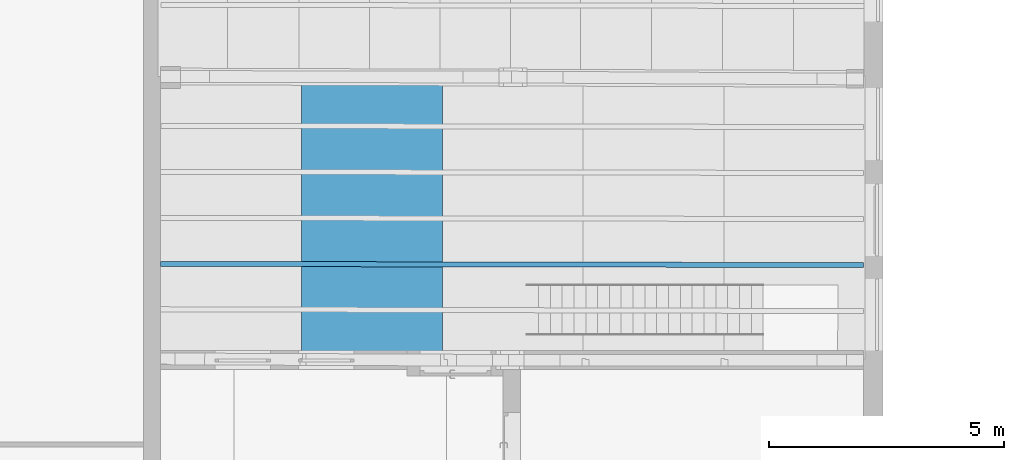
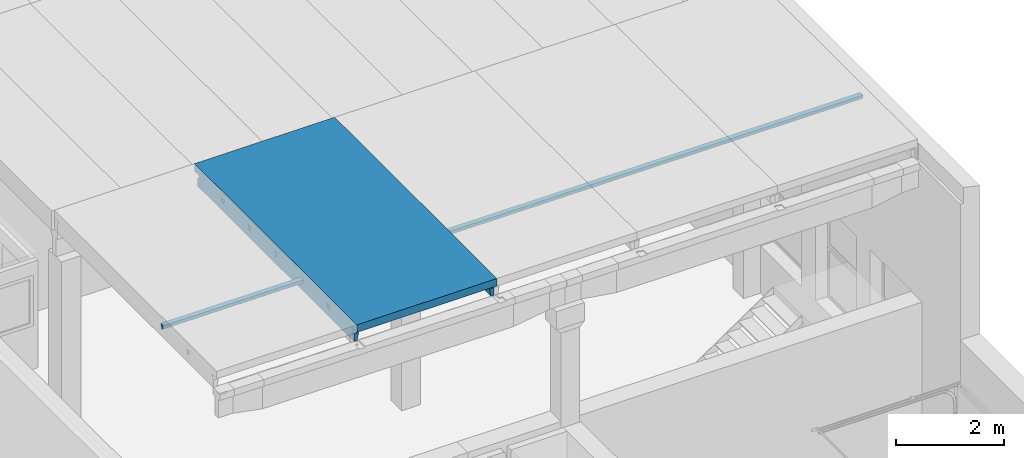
# One storey, part 27 of 301: 2 beams.
"""IFC2X3 building model written with IfcOpenShell, lengths in millimetres."""

from ifc_helpers import new_model, entity, si_unit, converted_unit, derived_unit, money_unit, direction, frame, origin_with_axes, place, context, subcontext, project, spatial, faceted_brep, material, type_object, element, save


model = new_model("IFC2X3")

# Units and contexts
model_context = context("Model", 3, precision=0.01, world=origin_with_axes(), true_north=direction((0.0, 1.0)))
body_context = subcontext(model_context, "Body", "Model", "MODEL_VIEW")
ifc_project = project(units=[si_unit("LENGTHUNIT", "METRE", prefix="MILLI"), si_unit("AREAUNIT", "SQUARE_METRE"), si_unit("VOLUMEUNIT", "CUBIC_METRE"), converted_unit("PLANEANGLEUNIT", "DEGREE", entity("IfcPlaneAngleMeasure", 0.0174532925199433), si_unit("PLANEANGLEUNIT", "RADIAN"), dimensions=[0, 0, 0, 0, 0, 0, 0]), money_unit("EUR"), converted_unit("TIMEUNIT", "Year", entity("IfcTimeMeasure", 31557600.0), si_unit("TIMEUNIT", "SECOND"), dimensions=[0, 0, 1, 0, 0, 0, 0]), si_unit("MASSUNIT", "GRAM", prefix="KILO"), si_unit("THERMODYNAMICTEMPERATUREUNIT", "DEGREE_CELSIUS"), si_unit("LUMINOUSINTENSITYUNIT", "LUMEN"), si_unit("ENERGYUNIT", "JOULE", prefix="MEGA"), derived_unit("THERMALCONDUCTANCEUNIT", [(si_unit("POWERUNIT", "WATT"), 1), (si_unit("LENGTHUNIT", "METRE"), -1), (si_unit("THERMODYNAMICTEMPERATUREUNIT", "KELVIN"), -1)]), derived_unit("SPECIFICHEATCAPACITYUNIT", [(si_unit("ENERGYUNIT", "JOULE"), 1), (si_unit("MASSUNIT", "GRAM", prefix="KILO"), -1), (si_unit("THERMODYNAMICTEMPERATUREUNIT", "KELVIN"), -1)]), derived_unit("MASSDENSITYUNIT", [(si_unit("MASSUNIT", "GRAM", prefix="KILO"), 1), (si_unit("VOLUMEUNIT", "CUBIC_METRE"), -1)])], contexts=[model_context])

# Site, building, storey
site_placement = place(None, frame((0.0, 0.0, 8650.0), z_axis=(0.0, 0.0, 1.0), x_axis=(1.0, 0.0, 0.0)))
site = spatial("IfcSite", under=ifc_project, at=site_placement, Name="43301:001:0844", CompositionType="ELEMENT")
building_placement = place(site_placement, origin_with_axes())
building = spatial("IfcBuilding", under=site, at=building_placement, Name="Kuressaare Ametikooli tuulikute mehaanikute õppekorpus", CompositionType="ELEMENT")
storey_placement = place(building_placement, origin_with_axes())
storey = spatial("IfcBuildingStorey", under=building, at=storey_placement, Name="1.korrus", CompositionType="ELEMENT", Elevation=0.0)

# Beams
ifc_material = material(Name="GENEERILINE - KONSTRUKTRIOON")
beam_type_1 = type_object("IfcBeamType", Name="Precast Double Tee 4 3000 x 440", PredefinedType="NOTDEFINED")
beam_1_placement = place(storey_placement, frame((92758.75644683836, 44085.15228588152, 7100.0), z_axis=(0.0, 0.0, 1.0), x_axis=(-1.0, 0.0, 0.0)))
element("IfcBeam", 1, at=beam_1_placement, inside=storey, type_object=beam_type_1, material=ifc_material, context=body_context, shape_type="Brep", body=[
    faceted_brep([(1500.0, 175.8063989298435, -180.532857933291), (1500.0, 144.1337401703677, -221.5483087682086), (1500.0, 118.5416034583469, -266.6089685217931), (1500.0, 118.5410783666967, -440.0001340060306), (1500.0, 5909.538082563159, -440.0001340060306), (1500.0, 5909.537560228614, -267.5188171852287), (1500.0, 5883.945509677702, -222.4581574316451), (1500.0, 5852.272957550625, -181.4427065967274), (1500.0, 5841.310383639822, -169.9098486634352), (1500.0, 6017.898995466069, -169.9098486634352), (1500.0, 6017.898995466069, 0.0), (1500.0, 0.0, 0.0), (1500.0, 0.0, -168.9999999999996), (1500.0, 186.7690097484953, -168.9999999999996), (1500.0, 1109.479151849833, -169.8331663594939), (1500.0, 1101.280294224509, -175.4075010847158), (1500.0, 1096.705674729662, -184.2033640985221), (1500.0, 1075.965689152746, -271.7806445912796), (1500.0, 1035.965635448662, -271.7806445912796), (1500.0, 1015.224688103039, -184.2031688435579), (1500.0, 1010.650048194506, -175.4074260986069), (1500.0, 1002.451257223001, -169.8331663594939), (1500.0, 2080.697543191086, -175.4075010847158), (1500.0, 2076.122923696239, -184.2033640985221), (1500.0, 2055.382938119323, -271.7806445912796), (1500.0, 2015.382884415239, -271.7806445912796), (1500.0, 1994.641937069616, -184.2031688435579), (1500.0, 1990.067297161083, -175.4074260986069), (1500.0, 1981.868506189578, -169.8331663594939), (1500.0, 2088.896400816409, -169.8331663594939), (1500.0, 3056.91112658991, -184.2033640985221), (1500.0, 3036.171141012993, -271.7806445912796), (1500.0, 2996.171087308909, -271.7806445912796), (1500.0, 2975.430139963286, -184.2031688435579), (1500.0, 2970.855500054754, -175.4074260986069), (1500.0, 2962.656709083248, -169.8331663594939), (1500.0, 3069.68460371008, -169.8331663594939), (1500.0, 3061.485746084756, -175.4075010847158), (1500.0, 4015.923319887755, -271.7806445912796), (1500.0, 3975.923266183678, -271.7806445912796), (1500.0, 3955.182318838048, -184.2031688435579), (1500.0, 3950.607678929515, -175.4074260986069), (1500.0, 3942.408887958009, -169.8331663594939), (1500.0, 4049.436782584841, -169.8331663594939), (1500.0, 4041.237924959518, -175.4075010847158), (1500.0, 4036.663305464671, -184.2033640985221), (1500.0, 4944.421613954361, -271.7806445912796), (1500.0, 4923.680620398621, -184.2031688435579), (1500.0, 4919.105970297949, -175.4074260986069), (1500.0, 4910.907161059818, -169.8331663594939), (1500.0, 5017.93529414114, -169.8331663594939), (1500.0, 5009.736418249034, -175.4075010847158), (1500.0, 5005.161788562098, -184.2033640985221), (1500.0, 4984.421756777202, -271.7806445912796), (1365.910046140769, 176.2609451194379, -180.532857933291), (1371.752641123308, 173.5078323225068, -184.0724353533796), (1384.30381979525, 161.0535806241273, -200.1453415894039), (1390.327470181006, 145.9881628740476, -219.628309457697), (1390.629556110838, 144.5044906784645, -221.5483087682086), (1397.719241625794, 118.8883209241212, -266.6089685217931), (1424.999996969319, 118.7953178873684, -440.0001340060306), (1424.999996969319, 5909.701673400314, -440.0001340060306), (1397.862394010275, 5909.760343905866, -267.5188171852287), (1390.772708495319, 5884.183757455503, -222.4581574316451), (1384.303819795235, 5866.96768204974, -200.1453415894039), (1371.752641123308, 5854.583395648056, -184.0724353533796), (1367.411885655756, 5852.562160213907, -181.4427065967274), (1390.327470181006, 5881.999490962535, -219.628309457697), (1354.310838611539, 5845.046292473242, -173.505793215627), (1334.723493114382, 5841.670886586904, -169.9098486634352), (1334.723493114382, 6017.898995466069, -169.9098486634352), (1334.253143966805, 6017.898995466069, -169.8234995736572), (1127.640522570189, 6017.898995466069, -169.9098486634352), (-1500.0, 6017.898995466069, -169.9098486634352), (-1500.0, 6017.898995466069, 0.0), (-1500.0, 0.0, 0.0), (-1500.0, 0.0, -168.9999999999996), (-1500.0, 196.9385901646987, -168.9999999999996), (-1370.461247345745, 185.536861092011, -180.532857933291), (-1370.286968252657, 185.7214269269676, -180.338069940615), (-1354.45241394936, 193.1779064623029, -172.4372542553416), (-1336.819669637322, 194.5415323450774, -170.9398142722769), (1334.253143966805, 186.548087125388, -169.8234995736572), (1354.310838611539, 182.9798732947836, -173.505793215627), (-1500.0, 185.975979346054, -180.532857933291), (1334.253120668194, 1109.750754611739, -169.8331663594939), (1354.310838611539, 1104.316104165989, -173.505793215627), (1357.449888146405, 1101.513885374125, -175.4075010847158), (1371.752641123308, 1096.983922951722, -184.0724353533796), (1371.854882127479, 1096.915660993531, -184.2033640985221), (1384.30381979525, 1093.119894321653, -200.1453415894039), (1390.327470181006, 1088.496081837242, -219.628309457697), (1398.532934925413, 1076.131959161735, -271.7806445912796), (1398.532934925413, 1036.131905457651, -271.7806445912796), (1371.854729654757, 1015.434674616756, -184.2031688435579), (1390.327470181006, 1023.794129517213, -219.628309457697), (1384.30381979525, 1019.18985478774, -200.1453415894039), (1371.752641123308, 1015.366847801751, -184.0724353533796), (1357.44976437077, 1010.883639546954, -175.4074260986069), (1354.310838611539, 1008.091803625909, -173.505793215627), (1334.253143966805, 1002.722859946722, -169.8331663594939), (-1500.0, 1114.395131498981, -169.8331663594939), (-1500.0, 1007.367236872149, -169.8331663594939), (1371.752641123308, 2076.401171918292, -184.0724353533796), (1371.854882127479, 2076.332909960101, -184.2033640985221), (1357.449888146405, 2080.931134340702, -175.4075010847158), (1390.327470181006, 2067.913330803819, -219.628309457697), (1398.532934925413, 2055.549208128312, -271.7806445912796), (1384.30381979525, 2072.53714328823, -200.1453415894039), (1398.532934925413, 2015.549154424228, -271.7806445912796), (1390.327470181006, 2003.21137848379, -219.628309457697), (1384.30381979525, 1998.607103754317, -200.1453415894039), (1371.854729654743, 1994.851923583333, -184.2031688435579), (1357.44976437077, 1990.300888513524, -175.4074260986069), (1371.752641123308, 1994.784096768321, -184.0724353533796), (1334.253124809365, 1982.140108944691, -169.8331663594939), (1354.310838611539, 1987.509052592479, -173.505793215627), (1334.253120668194, 2089.168003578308, -169.8331663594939), (-1500.0, 1986.784485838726, -169.8331663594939), (-1500.0, 2093.812380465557, -169.8331663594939), (1354.310838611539, 2083.733353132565, -173.505793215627), (1398.532934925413, 3036.337411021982, -271.7806445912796), (1371.854882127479, 3057.121112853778, -184.2033640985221), (1384.30381979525, 3053.3253461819, -200.1453415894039), (1390.327470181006, 3048.701533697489, -219.628309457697), (1398.532934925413, 2996.337357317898, -271.7806445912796), (1390.327470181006, 2983.999581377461, -219.628309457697), (1384.30381979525, 2979.395306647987, -200.1453415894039), (1371.854729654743, 2975.640126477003, -184.2031688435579), (1371.752641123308, 2975.572299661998, -184.0724353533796), (1357.449764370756, 2971.089091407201, -175.4074260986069), (1354.310838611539, 2968.297255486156, -173.505793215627), (1334.25312584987, 2962.928311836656, -169.8331663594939), (-1500.0, 2967.572688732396, -169.8331663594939), (-1500.0, 3074.600583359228, -169.8331663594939), (1334.253120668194, 3069.956206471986, -169.8331663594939), (1357.449888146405, 3061.719337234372, -175.4075010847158), (1354.310838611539, 3064.521556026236, -173.505793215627), (1371.752641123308, 3057.189374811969, -184.0724353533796), (1398.532934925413, 4016.089589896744, -271.7806445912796), (1398.532934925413, 3976.08953619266, -271.7806445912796), (1390.327470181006, 3963.751760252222, -219.628309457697), (1384.30381979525, 3959.147485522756, -200.1453415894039), (1371.854729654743, 3955.392305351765, -184.2031688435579), (1371.752641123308, 3955.32447853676, -184.0724353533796), (1357.449764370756, 3950.841270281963, -175.4074260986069), (1354.310838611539, 3948.049434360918, -173.505793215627), (1334.253127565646, 3942.680490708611, -169.8331663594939), (-1500.0, 3947.324867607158, -169.8331663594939), (-1500.0, 4054.352762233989, -169.8331663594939), (1334.253120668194, 4049.708385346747, -169.8331663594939), (1354.310838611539, 4044.273734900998, -173.505793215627), (1357.449888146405, 4041.471516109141, -175.4075010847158), (1371.752641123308, 4036.941553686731, -184.0724353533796), (1371.854882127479, 4036.87329172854, -184.2033640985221), (1384.30381979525, 4033.077525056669, -200.1453415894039), (1390.327470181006, 4028.453712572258, -219.628309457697), (1390.327470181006, 4932.363441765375, -219.628309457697), (1384.303819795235, 4927.765383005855, -200.1453415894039), (1371.854729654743, 4924.023062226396, -184.2031688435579), (1398.532934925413, 4944.692763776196, -271.7806445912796), (1371.752641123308, 4923.955340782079, -184.0724353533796), (1357.44976437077, 4919.486906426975, -175.4074260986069), (1354.310838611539, 4916.698308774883, -173.505793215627), (1334.253130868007, 4911.350085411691, -169.8331663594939), (-1500.0, 4918.924042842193, -169.8331663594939), (-1500.0, 5025.952175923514, -169.8331663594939), (1334.25311343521, 5018.378218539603, -169.8331663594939), (1354.310838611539, 5012.922823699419, -173.505793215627), (1357.449888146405, 5010.117354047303, -175.4075010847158), (1371.752641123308, 5005.572597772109, -184.0724353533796), (1371.854882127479, 5005.504229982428, -184.2033640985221), (1384.303819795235, 5001.695587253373, -200.1453415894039), (1390.327470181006, 4997.065538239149, -219.628309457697), (1398.532934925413, 4984.692906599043, -271.7806445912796), (-1336.819669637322, 5023.888423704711, -170.9398142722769), (-1336.819669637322, 5848.47712133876, -170.9398142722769), (1127.640522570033, 5842.122578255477, -169.9098486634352), (-1500.0, 5847.854016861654, -169.9098486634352), (-1500.0, 5858.816590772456, -181.4427065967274), (-1500.0, 5890.489142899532, -222.4581574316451), (-1500.0, 5916.081193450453, -267.5188171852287), (-1500.0, 5916.081715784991, -440.0001340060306), (-1500.0, 128.7106587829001, -440.0001340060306), (-1500.0, 128.7111838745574, -266.6089685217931), (-1500.0, 154.3033205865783, -221.5483087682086), (-1500.0, 1015.566027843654, -175.4074260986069), (-1500.0, 1020.140667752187, -184.2031688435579), (-1500.0, 1040.88161509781, -271.7806445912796), (-1500.0, 1080.881668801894, -271.7806445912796), (-1500.0, 1101.62165437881, -184.2033640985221), (-1500.0, 1106.196273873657, -175.4075010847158), (-1500.0, 1999.557916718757, -184.2031688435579), (-1500.0, 2020.298864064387, -271.7806445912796), (-1500.0, 2060.29891776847, -271.7806445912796), (-1500.0, 2081.03890334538, -184.2033640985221), (-1500.0, 2085.613522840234, -175.4075010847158), (-1500.0, 1994.983276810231, -175.4074260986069), (-1500.0, 3001.087066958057, -271.7806445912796), (-1500.0, 3041.087120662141, -271.7806445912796), (-1500.0, 3061.827106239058, -184.2033640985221), (-1500.0, 3066.401725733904, -175.4075010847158), (-1500.0, 2975.771479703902, -175.4074260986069), (-1500.0, 2980.346119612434, -184.2031688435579), (-1500.0, 4020.839299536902, -271.7806445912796), (-1500.0, 4041.579285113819, -184.2033640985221), (-1500.0, 4046.153904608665, -175.4075010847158), (-1500.0, 3955.523658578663, -175.4074260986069), (-1500.0, 3960.098298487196, -184.2031688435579), (-1500.0, 3980.839245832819, -271.7806445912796), (-1500.0, 5013.17867034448, -184.2033640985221), (-1500.0, 5017.753300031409, -175.4075010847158), (-1500.0, 4927.122852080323, -175.4074260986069), (-1500.0, 4931.697502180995, -184.2031688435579), (-1500.0, 4952.438495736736, -271.7806445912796), (-1500.0, 4992.438638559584, -271.7806445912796), (-1370.286968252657, 1017.917885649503, -180.338069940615), (-1382.086528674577, 175.5426550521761, -193.5261847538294), (-1382.086528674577, 1022.155414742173, -193.5261847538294), (-1373.745117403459, 1019.933778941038, -184.2031688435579), (-1360.405134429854, 1015.337279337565, -175.4074260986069), (-1354.45241394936, 1010.958905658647, -172.4372542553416), (-1336.819669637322, 1008.727531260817, -170.9398142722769), (-1388.184278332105, 162.7349790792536, -210.1386333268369), (-1390.259892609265, 153.9313169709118, -221.5483087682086), (-1360.405284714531, 1105.967525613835, -175.4075010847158), (-1354.45241394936, 1110.326477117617, -172.4372542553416), (-1336.819669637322, 1112.500051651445, -170.9398142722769), (-1336.819669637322, 1988.144780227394, -170.9398142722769), (-1354.45241394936, 1990.376154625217, -172.4372542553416), (-1360.40513442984, 1994.754528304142, -175.4074260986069), (-1360.405284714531, 2085.384774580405, -175.4075010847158), (-1354.45241394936, 2089.743726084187, -172.4372542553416), (-1336.819669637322, 2091.917300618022, -170.9398142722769), (-1336.819669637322, 2968.932983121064, -170.9398142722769), (-1354.45241394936, 2971.164357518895, -172.4372542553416), (-1360.40513442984, 2975.542731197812, -175.4074260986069), (-1354.45241394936, 3070.531928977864, -172.4372542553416), (-1336.819669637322, 3072.705503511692, -170.9398142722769), (-1360.405284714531, 3066.172977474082, -175.4075010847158), (-1354.45241394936, 3950.916536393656, -172.4372542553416), (-1360.40513442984, 3955.294910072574, -175.4074260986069), (-1336.819669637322, 3948.685161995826, -170.9398142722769), (-1336.819669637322, 4052.457682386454, -170.9398142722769), (-1360.405284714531, 4045.925156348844, -175.4075010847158), (-1354.45241394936, 4050.284107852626, -172.4372542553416), (-1360.40513442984, 4926.749813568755, -175.4074260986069), (-1336.819669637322, 4920.115672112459, -170.9398142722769), (-1354.45241394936, 4922.365277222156, -172.4372542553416), (-1360.405284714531, 5017.380261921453, -175.4075010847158), (-1354.45241394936, 5021.733070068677, -172.4372542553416), (-1354.45241394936, 5849.938975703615, -172.4372542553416), (-1371.275299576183, 5858.5358150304, -181.4427065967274), (-1370.286968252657, 5857.483645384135, -180.338069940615), (-1388.184278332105, 5880.731986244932, -210.1386333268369), (-1390.425409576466, 5890.250137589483, -222.4581574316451), (-1382.086528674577, 5867.890382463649, -193.5261847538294), (-1398.622710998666, 5915.860068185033, -267.5188171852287), (-1430.000000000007, 5915.929031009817, -440.0001340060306), (-1430.000000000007, 128.4733685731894, -440.0001340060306), (-1398.457194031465, 128.3669679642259, -266.6089685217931), (-1388.184278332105, 1026.099728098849, -210.1386333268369), (-1399.398009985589, 1040.716762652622, -271.7806445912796), (-1399.398009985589, 1080.716816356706, -271.7806445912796), (-1388.184278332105, 1095.296455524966, -210.1386333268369), (-1382.086528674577, 1099.220610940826, -193.5261847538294), (-1373.745292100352, 1101.414765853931, -184.2033640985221), (-1370.286968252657, 1103.419390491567, -180.338069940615), (-1373.745117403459, 1999.351027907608, -184.2031688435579), (-1382.086528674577, 2001.57266370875, -193.5261847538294), (-1388.184278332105, 2005.516977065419, -210.1386333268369), (-1399.398009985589, 2020.134011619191, -271.7806445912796), (-1399.398009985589, 2060.134065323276, -271.7806445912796), (-1388.184278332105, 2074.713704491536, -210.1386333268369), (-1382.086528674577, 2078.637859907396, -193.5261847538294), (-1373.745292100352, 2080.832014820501, -184.2033640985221), (-1370.286968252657, 2082.836639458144, -180.338069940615), (-1370.286968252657, 1997.335134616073, -180.338069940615), (-1399.398009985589, 3000.922214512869, -271.7806445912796), (-1399.398009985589, 3040.922268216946, -271.7806445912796), (-1388.184278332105, 3055.501907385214, -210.1386333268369), (-1382.086528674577, 3059.426062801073, -193.5261847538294), (-1373.745292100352, 3061.620217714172, -184.2033640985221), (-1370.286968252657, 3063.624842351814, -180.338069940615), (-1370.286968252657, 2978.12333750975, -180.338069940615), (-1373.745117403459, 2980.139230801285, -184.2031688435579), (-1382.086528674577, 2982.36086660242, -193.5261847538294), (-1388.184278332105, 2986.305179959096, -210.1386333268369), (-1382.086528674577, 4039.178241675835, -193.5261847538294), (-1373.745292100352, 4041.37239658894, -184.2033640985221), (-1399.398009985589, 4020.674447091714, -271.7806445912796), (-1388.184278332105, 4035.254086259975, -210.1386333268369), (-1370.286968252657, 4043.377021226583, -180.338069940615), (-1370.286968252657, 3957.875516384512, -180.338069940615), (-1373.745117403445, 3959.891409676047, -184.2031688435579), (-1388.184278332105, 3966.057358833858, -210.1386333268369), (-1399.398009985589, 3980.674393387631, -271.7806445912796), (-1382.086528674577, 3962.113045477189, -193.5261847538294), (-1373.745292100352, 5012.841280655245, -184.2033640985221), (-1370.286968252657, 5014.842335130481, -180.338069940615), (-1373.745117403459, 4931.360112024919, -184.2031688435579), (-1370.286968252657, 4929.340639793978, -180.338069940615), (-1399.398009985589, 4952.169657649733, -271.7806445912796), (-1382.086528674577, 4933.590374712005, -193.5261847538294), (-1388.184278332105, 4937.540999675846, -210.1386333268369), (-1399.398009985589, 4992.169800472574, -271.7806445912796), (-1388.184278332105, 5006.737881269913, -210.1386333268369), (-1382.086528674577, 5010.65574260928, -193.5261847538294)], [[[0, 1, 2, 3, 4, 5, 6, 7, 8, 9, 10, 11, 12, 13], [14, 15, 16, 17, 18, 19, 20, 21], [22, 23, 24, 25, 26, 27, 28, 29], [30, 31, 32, 33, 34, 35, 36, 37], [38, 39, 40, 41, 42, 43, 44, 45], [46, 47, 48, 49, 50, 51, 52, 53]], [[1, 0, 54, 55, 56, 57, 58]], [[1, 58, 59, 2]], [[2, 59, 60, 3]], [[61, 4, 3, 60]], [[61, 62, 5, 4]], [[62, 63, 6, 5]], [[64, 65, 66, 7, 6, 63, 67]], [[8, 7, 66, 68, 69]], [[69, 70, 9, 8]], [[71, 72, 73, 74, 10, 9, 70]], [[75, 11, 10, 74]], [[75, 76, 12, 11]], [[13, 12, 76, 77]], [[78, 79, 80, 81, 82, 83, 54, 0, 13, 77, 84]], [[85, 86, 87, 15, 14]], [[87, 88, 89, 16, 15]], [[90, 91, 92, 17, 16, 89]], [[17, 92, 93, 18]], [[94, 19, 18, 93, 95, 96]], [[97, 98, 20, 19, 94]], [[99, 100, 21, 20, 98]], [[101, 85, 14, 21, 100, 102]], [[103, 104, 23, 22, 105]], [[106, 107, 24, 23, 104, 108]], [[107, 109, 25, 24]], [[26, 25, 109, 110, 111, 112]], [[113, 27, 26, 112, 114]], [[115, 28, 27, 113, 116]], [[117, 29, 28, 115, 118, 119]], [[120, 105, 22, 29, 117]], [[121, 31, 30, 122, 123, 124]], [[125, 32, 31, 121]], [[32, 125, 126, 127, 128, 33]], [[34, 33, 128, 129, 130]], [[35, 34, 130, 131, 132]], [[36, 35, 132, 133, 134, 135]], [[136, 37, 36, 135, 137]], [[122, 30, 37, 136, 138]], [[39, 38, 139, 140]], [[140, 141, 142, 143, 40, 39]], [[40, 143, 144, 145, 41]], [[41, 145, 146, 147, 42]], [[42, 147, 148, 149, 150, 43]], [[44, 43, 150, 151, 152]], [[45, 44, 152, 153, 154]], [[38, 45, 154, 155, 156, 139]], [[157, 158, 159, 47, 46, 160]], [[159, 161, 162, 48, 47]], [[162, 163, 164, 49, 48]], [[164, 165, 166, 167, 50, 49]], [[50, 167, 168, 169, 51]], [[51, 169, 170, 171, 52]], [[52, 171, 172, 173, 174, 53]], [[53, 174, 160, 46]], [[97, 55, 54, 83, 99, 98]], [[94, 96, 56, 55, 97]], [[56, 96, 95, 57]], [[160, 174, 173, 67, 63, 62, 61, 60, 59, 58, 57, 95, 93, 92, 91, 110, 109, 107, 106, 126, 125, 121, 124, 141, 140, 139, 156, 157]], [[172, 171, 170, 65, 64]], [[170, 169, 168, 68, 66, 65]], [[67, 173, 172, 64]], [[68, 168, 167, 71, 70, 69]], [[71, 167, 175, 176, 177, 72]], [[178, 73, 72, 177]], [[77, 76, 75, 74, 73, 178, 179, 180, 181, 182, 183, 184, 185, 84], [186, 187, 188, 189, 190, 191, 101, 102], [192, 193, 194, 195, 196, 119, 118, 197], [198, 199, 200, 201, 134, 133, 202, 203], [204, 205, 206, 149, 148, 207, 208, 209], [210, 211, 166, 165, 212, 213, 214, 215]], [[216, 79, 78, 217, 218, 219]], [[220, 221, 80, 79, 216]], [[80, 221, 222, 81]], [[81, 222, 100, 82]], [[82, 100, 99, 83]], [[223, 217, 78, 84, 185, 224]], [[115, 116, 86, 85]], [[88, 87, 86, 116, 113, 114]], [[90, 89, 88, 114, 112, 111]], [[111, 110, 91, 90]], [[191, 225, 226, 227, 85, 101]], [[102, 100, 222, 221, 220, 186]], [[104, 103, 129, 128, 127, 108]], [[105, 120, 131, 130, 129, 103]], [[126, 106, 108, 127]], [[115, 228, 229, 230, 197, 118]], [[231, 232, 233, 117, 119, 196]], [[131, 120, 117, 132]], [[138, 144, 143, 142, 123, 122]], [[124, 123, 142, 141]], [[234, 235, 236, 202, 133, 132]], [[237, 238, 135, 134, 201, 239]], [[137, 135, 147, 146]], [[137, 146, 145, 144, 138, 136]], [[240, 241, 207, 148, 147, 242]], [[243, 150, 149, 206, 244, 245]], [[150, 164, 163, 151]], [[163, 162, 161, 153, 152, 151]], [[161, 159, 158, 155, 154, 153]], [[155, 158, 157, 156]], [[246, 212, 165, 164, 247, 248]], [[167, 166, 211, 249, 250, 175]], [[176, 175, 250, 251]], [[252, 179, 178, 177, 176, 251, 253]], [[254, 255, 180, 179, 252, 256]], [[181, 180, 255, 257]], [[182, 181, 257, 258]], [[182, 258, 259, 183]], [[260, 184, 183, 259]], [[224, 185, 184, 260]], [[187, 186, 220, 216, 219]], [[187, 219, 218, 261, 262, 188]], [[263, 189, 188, 262]], [[189, 263, 264, 265, 266, 190]], [[191, 190, 266, 267, 225]], [[268, 269, 270, 271, 193, 192]], [[194, 193, 271, 272]], [[272, 273, 274, 275, 195, 194]], [[195, 275, 276, 231, 196]], [[197, 230, 277, 268, 192]], [[198, 278, 279, 199]], [[280, 281, 282, 200, 199, 279]], [[282, 283, 239, 201, 200]], [[236, 284, 285, 203, 202]], [[286, 287, 278, 198, 203, 285]], [[288, 289, 205, 204, 290, 291]], [[292, 244, 206, 205, 289]], [[293, 294, 208, 207, 241]], [[295, 296, 209, 208, 294, 297]], [[296, 290, 204, 209]], [[249, 211, 210, 298, 299]], [[300, 213, 212, 246, 301]], [[302, 214, 213, 300, 303, 304]], [[305, 215, 214, 302]], [[298, 210, 215, 305, 306, 307]], [[223, 261, 218, 217]], [[254, 306, 305, 302, 304, 291, 290, 296, 295, 280, 279, 278, 287, 273, 272, 271, 270, 264, 263, 262, 261, 223, 224, 260, 259, 258, 257, 255]], [[228, 115, 85, 227]], [[226, 225, 267, 277, 230, 229]], [[229, 228, 227, 226]], [[231, 276, 284, 236, 235, 232]], [[234, 233, 232, 235]], [[132, 117, 233, 234]], [[238, 237, 240, 242]], [[135, 238, 242, 147]], [[283, 293, 241, 240, 237, 239]], [[243, 247, 164, 150]], [[301, 246, 248, 245, 244, 292]], [[245, 248, 247, 243]], [[250, 249, 299, 253, 251]], [[299, 298, 307, 256, 252, 253]], [[256, 307, 306, 254]], [[270, 269, 265, 264]], [[267, 266, 265, 269, 268, 277]], [[286, 274, 273, 287]], [[275, 274, 286, 285, 284, 276]], [[281, 280, 295, 297]], [[281, 297, 294, 293, 283, 282]], [[303, 300, 301, 292, 289, 288]], [[291, 304, 303, 288]]]),
])
beam_type_2 = type_object("IfcBeamType", Name="Precast Single Tee 2 107 x 102", PredefinedType="NOTDEFINED")
beam_2_placement = place(storey_placement, frame((88258.75644683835, 40094.14543025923, 6930.166833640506), z_axis=(0.0, 0.0, 1.0), x_axis=(-0.001638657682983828, -0.9999986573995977, 0.0)))
element("IfcBeam", 2, at=beam_2_placement, inside=storey, type_object=beam_type_2, material=ifc_material, context=body_context, shape_type="Brep", body=[
    faceted_brep([(45.31502884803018, 0.0, -5.574334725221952), (45.31502884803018, 14968.77585727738, -5.574334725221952), (53.51387546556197, 14968.77585727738, 0.0), (53.51387546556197, 0.0, 0.0), (40.74041549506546, 0.0, -14.37019773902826), (40.74041549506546, 14968.77585727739, -14.37019773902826), (20.00045776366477, 14968.77585727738, -101.9474782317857), (-19.99954223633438, 14968.77585727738, -101.9474782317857), (-40.74046173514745, 14968.77585727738, -14.37000248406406), (-45.31509550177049, 14968.77585727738, -5.574259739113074), (-53.51387546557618, 14968.77585727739, 0.0), (-53.51387546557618, 0.0, 0.0), (-45.31509550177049, 0.0, -5.574259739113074), (-40.74046173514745, 0.0, -14.37000248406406), (-19.99954223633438, 0.0, -101.9474782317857), (20.00045776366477, 0.0, -101.9474782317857)], [[[0, 1, 2, 3]], [[4, 5, 1, 0]], [[2, 1, 5, 6, 7, 8, 9, 10]], [[3, 2, 10, 11]], [[4, 0, 3, 11, 12, 13, 14, 15]], [[15, 6, 5, 4]], [[14, 7, 6, 15]], [[13, 8, 7, 14]], [[12, 9, 8, 13]], [[11, 10, 9, 12]]]),
])

save(model, "model.ifc")
